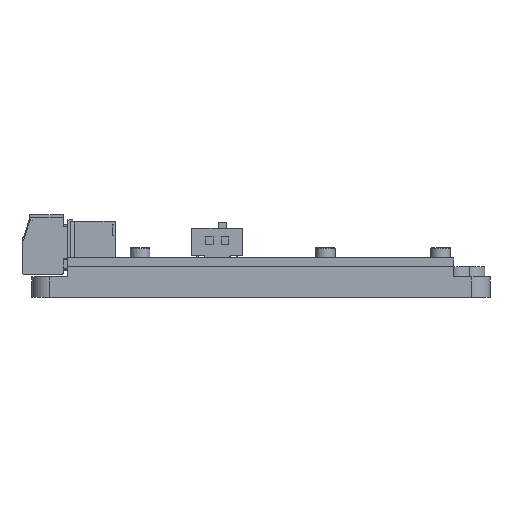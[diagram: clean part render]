
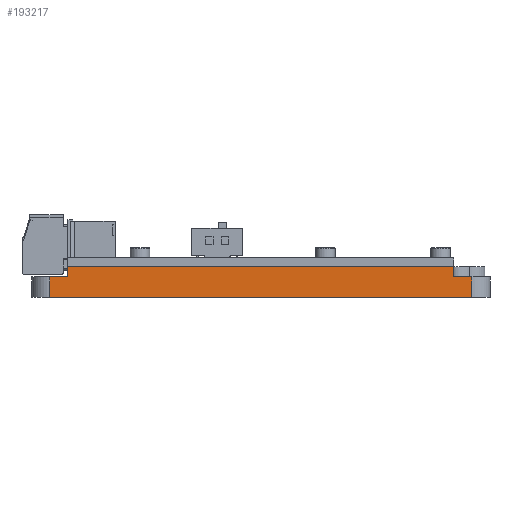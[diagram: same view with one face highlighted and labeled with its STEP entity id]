
A CAD part, front view. The second image highlights one B-rep face of the part: STEP entity #193217.
In plain terms, the highlighted planar face has unit normal (0, -1, 0).
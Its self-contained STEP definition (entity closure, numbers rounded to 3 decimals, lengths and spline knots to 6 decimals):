
#52911=ORIENTED_EDGE('',*,*,#84494,.T.);
#52912=ORIENTED_EDGE('',*,*,#84495,.F.);
#52913=ORIENTED_EDGE('',*,*,#84496,.F.);
#52914=ORIENTED_EDGE('',*,*,#84497,.F.);
#52915=ORIENTED_EDGE('',*,*,#84498,.F.);
#52916=ORIENTED_EDGE('',*,*,#84292,.T.);
#52917=ORIENTED_EDGE('',*,*,#84499,.T.);
#52918=ORIENTED_EDGE('',*,*,#84500,.T.);
#84292=EDGE_CURVE('',#103190,#103189,#124159,.T.);
#84494=EDGE_CURVE('',#103331,#103332,#124273,.T.);
#84495=EDGE_CURVE('',#103333,#103332,#124274,.T.);
#84496=EDGE_CURVE('',#103334,#103333,#124275,.T.);
#84497=EDGE_CURVE('',#103335,#103334,#124276,.T.);
#84498=EDGE_CURVE('',#103190,#103335,#124277,.T.);
#84499=EDGE_CURVE('',#103189,#103336,#124278,.T.);
#84500=EDGE_CURVE('',#103336,#103331,#124279,.T.);
#103189=VERTEX_POINT('',#326335);
#103190=VERTEX_POINT('',#326337);
#103331=VERTEX_POINT('',#326745);
#103332=VERTEX_POINT('',#326746);
#103333=VERTEX_POINT('',#326748);
#103334=VERTEX_POINT('',#326750);
#103335=VERTEX_POINT('',#326752);
#103336=VERTEX_POINT('',#326755);
#124159=LINE('',#326336,#145986);
#124273=LINE('',#326744,#146100);
#124274=LINE('',#326747,#146101);
#124275=LINE('',#326749,#146102);
#124276=LINE('',#326751,#146103);
#124277=LINE('',#326753,#146104);
#124278=LINE('',#326754,#146105);
#124279=LINE('',#326756,#146106);
#145986=VECTOR('',#269340,1.);
#146100=VECTOR('',#269760,1.);
#146101=VECTOR('',#269761,1.);
#146102=VECTOR('',#269762,1.);
#146103=VECTOR('',#269763,1.);
#146104=VECTOR('',#269764,1.);
#146105=VECTOR('',#269765,1.);
#146106=VECTOR('',#269766,1.);
#159968=EDGE_LOOP('',(#52911,#52912,#52913,#52914,#52915,#52916,#52917,
#52918));
#171980=FACE_BOUND('',#159968,.T.);
#182324=PLANE('',#224491);
#193217=ADVANCED_FACE('',(#171980),#182324,.F.);
#224491=AXIS2_PLACEMENT_3D('',#326743,#269758,#269759);
#269340=DIRECTION('',(0.,0.,-1.));
#269758=DIRECTION('',(0.,1.,0.));
#269759=DIRECTION('',(-1.,0.,0.));
#269760=DIRECTION('',(1.,0.,0.));
#269761=DIRECTION('',(0.,0.,-1.));
#269762=DIRECTION('',(1.,0.,0.));
#269763=DIRECTION('',(0.,0.,-1.));
#269764=DIRECTION('',(1.,0.,0.));
#269765=DIRECTION('',(-1.,0.,0.));
#269766=DIRECTION('',(0.,0.,-1.));
#326335=CARTESIAN_POINT('',(-0.0375,-0.03,0.004));
#326336=CARTESIAN_POINT('',(-0.0375,-0.03,0.006));
#326337=CARTESIAN_POINT('',(-0.0375,-0.03,0.006));
#326743=CARTESIAN_POINT('',(0.,-0.03,0.006));
#326744=CARTESIAN_POINT('',(0.,-0.03,0.));
#326745=CARTESIAN_POINT('',(-0.041,-0.03,0.));
#326746=CARTESIAN_POINT('',(0.041,-0.03,0.));
#326747=CARTESIAN_POINT('',(0.041,-0.03,0.004));
#326748=CARTESIAN_POINT('',(0.041,-0.03,0.004));
#326749=CARTESIAN_POINT('',(0.03925,-0.03,0.004));
#326750=CARTESIAN_POINT('',(0.0375,-0.03,0.004));
#326751=CARTESIAN_POINT('',(0.0375,-0.03,0.006));
#326752=CARTESIAN_POINT('',(0.0375,-0.03,0.006));
#326753=CARTESIAN_POINT('',(0.,-0.03,0.006));
#326754=CARTESIAN_POINT('',(-0.03925,-0.03,0.004));
#326755=CARTESIAN_POINT('',(-0.041,-0.03,0.004));
#326756=CARTESIAN_POINT('',(-0.041,-0.03,0.004));
